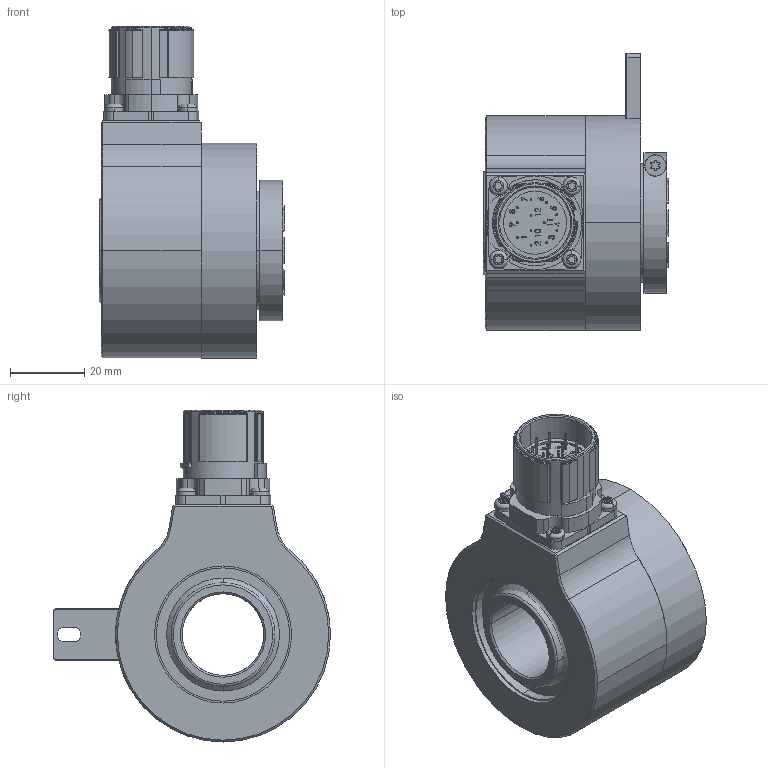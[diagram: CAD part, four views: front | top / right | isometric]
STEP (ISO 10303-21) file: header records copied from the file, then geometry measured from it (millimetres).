
FILE_DESCRIPTION (( 'STEP AP203' ), '1' );
FILE_NAME ('K58I.OXX.XXXXX.XH17525.XXRC4.step', '2025-12-03T09:11:26', ( '' ), ( '' ), 'SwSTEP 2.0', 'SolidWorks 2021', '' );
FILE_SCHEMA (( 'CONFIG_CONTROL_DESIGN' ));
Length unit declared in the file: millimetre
Products named in the file (1): K58I.OXX.XXXXX.XH17525.XXRC4
Bounding box: 50 x 74.75 x 89.6 mm (x, y, z)
Volume: 115414.8 mm3; surface area: 41189.4 mm2
Topology: 7 solids, 7 shells, 728 faces, 1892 edges, 1204 vertices
Faces by surface type: cylinder 270, plane 265, bspline 96, cone 51, sphere 34, torus 12
Entity records: 28103 total; most frequent: CARTESIAN_POINT 10557, ORIENTED_EDGE 3700, DIRECTION 3559, EDGE_CURVE 1850, AXIS2_PLACEMENT_3D 1309, VERTEX_POINT 1201, VECTOR 941, LINE 941
